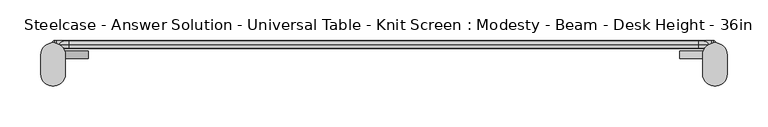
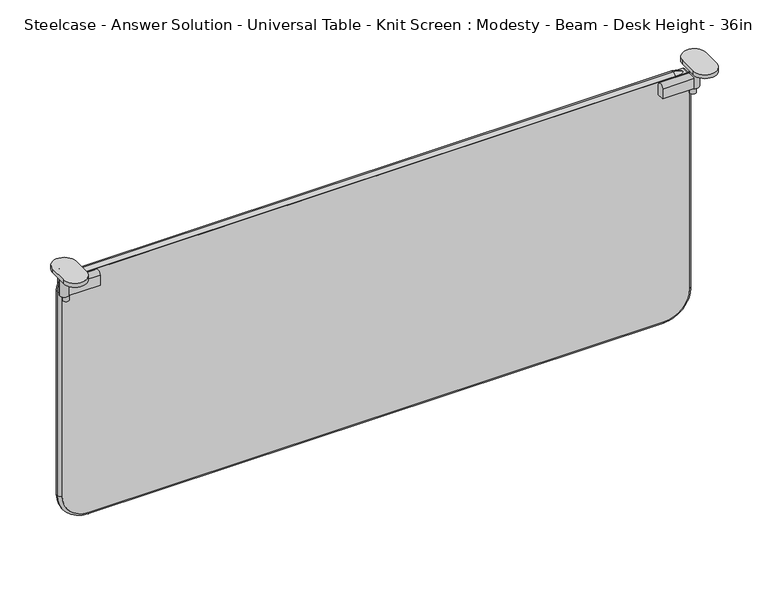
"""IFC4 building model written with IfcOpenShell, lengths in millimetres: furniture geometry, Steelcase - Answer Solution - Universal Table - Knit Screen : Modesty - Beam - Desk Height - 36in."""

from ifc_helpers import new_model, si_unit, point, frame, frame_2d, origin, place, context, project, spatial, polyline, circle_curve, ellipse_curve, trimmed, segment, composite_curve, outline, extrude, source, transform, mapped, element, save
from ifc_brep_helpers import plane_surface, cylinder_surface, revolved_surface, advanced_brep


def steelcase_answer_solution_universal_table_knit_screen_302e8e23(model_context):
    return source(origin(), model_context, "Body", "SolidModel", [
        extrude(outline(composite_curve([segment(polyline([(-29.128946, 557.1716837), (-29.128946, 570.5329841)]), True, "CONTINUOUS"), segment(trimmed(circle_curve(frame_2d((-24.4350465, 570.5329841)), 4.6938995), [point((-29.128946, 570.5329841))], [point((-19.7411469, 570.5329841))], False, "CARTESIAN"), True, "CONTINUOUS"), segment(polyline([(-19.7411469, 570.5329841), (-19.7411469, 557.1716837), (-29.128946, 557.1716837)]), True, "CONTINUOUS")], self_intersect=False)), frame((816.6167228, 0.0, 0.0), z_axis=(1.0, 0.0, 0.0), x_axis=(0.0, 1.0, 0.0)), (0.0, 0.0, 1.0), 43.5285515),
        extrude(outline(composite_curve([segment(trimmed(circle_curve(frame_2d((858.2143327, -24.4352196)), 3.96875), [point((862.1830827, -24.4352196))], [point((854.2455827, -24.4352196))], False, "CARTESIAN"), True, "CONTINUOUS"), segment(trimmed(circle_curve(frame_2d((858.2143327, -24.4352196)), 3.96875), [point((854.2455827, -24.4352196))], [point((862.1830827, -24.4352196))], False, "CARTESIAN"), True, "CONTINUOUS")], self_intersect=False)), frame((0.0, 0.0, 549.0915626), z_axis=(0.0, 0.0, 1.0), x_axis=(1.0, 0.0, 0.0)), (0.0, 0.0, 1.0), 8.0801211),
        extrude(outline(composite_curve([segment(trimmed(circle_curve(frame_2d((860.1452743, -24.4352196)), 5.8800133), [point((866.0252876, -24.4352196))], [point((854.265261, -24.4352196))], False, "CARTESIAN"), True, "CONTINUOUS"), segment(trimmed(circle_curve(frame_2d((860.1452743, -24.4352196)), 5.8800133), [point((854.265261, -24.4352196))], [point((866.0252876, -24.4352196))], False, "CARTESIAN"), True, "CONTINUOUS")], self_intersect=False)), frame((0.0, 0.0, 557.1716837), z_axis=(0.0, 0.0, 1.0), x_axis=(1.0, 0.0, 0.0)), (0.0, 0.0, 1.0), 34.3007611),
        extrude(outline(composite_curve([segment(polyline([(875.201332, -24.6349615), (875.201332, -48.0866189)]), True, "CONTINUOUS"), segment(trimmed(circle_curve(frame_2d((860.145565, -48.0866189)), 15.0557671), [point((875.201332, -48.0866189))], [point((845.0897979, -48.0866189))], False, "CARTESIAN"), True, "CONTINUOUS"), segment(polyline([(845.0897979, -48.0866189), (845.0897979, -24.6349615)]), True, "CONTINUOUS"), segment(trimmed(circle_curve(frame_2d((860.145565, -24.6349615)), 15.0557671), [point((845.0897979, -24.6349615))], [point((875.201332, -24.6349615))], False, "CARTESIAN"), True, "CONTINUOUS")], self_intersect=False)), frame((0.0, 0.0, 591.4724448), z_axis=(0.0, 0.0, 1.0), x_axis=(1.0, 0.0, 0.0)), (0.0, 0.0, 1.0), 5.4275552),
        extrude(outline(composite_curve([segment(polyline([(-29.128946, 557.1716837), (-29.128946, 570.5329841)]), True, "CONTINUOUS"), segment(trimmed(circle_curve(frame_2d((-24.4350465, 570.5329841)), 4.6938995), [point((-29.128946, 570.5329841))], [point((-19.7411469, 570.5329841))], False, "CARTESIAN"), True, "CONTINUOUS"), segment(polyline([(-19.7411469, 570.5329841), (-19.7411469, 557.1716837), (-29.128946, 557.1716837)]), True, "CONTINUOUS")], self_intersect=False)), frame((47.6108911, 0.0, 0.0), z_axis=(1.0, 0.0, 0.0), x_axis=(0.0, 1.0, 0.0)), (0.0, 0.0, 1.0), 43.5285515),
        extrude(outline(composite_curve([segment(trimmed(circle_curve(frame_2d((49.5418327, -24.4352196)), 3.96875), [point((45.5730827, -24.4352196))], [point((53.5105827, -24.4352196))], False, "CARTESIAN"), True, "CONTINUOUS"), segment(trimmed(circle_curve(frame_2d((49.5418327, -24.4352196)), 3.96875), [point((53.5105827, -24.4352196))], [point((45.5730827, -24.4352196))], False, "CARTESIAN"), True, "CONTINUOUS")], self_intersect=False)), frame((0.0, 0.0, 549.0915626), z_axis=(0.0, 0.0, 1.0), x_axis=(1.0, 0.0, 0.0)), (0.0, 0.0, 1.0), 8.0801211),
        extrude(outline(composite_curve([segment(trimmed(circle_curve(frame_2d((47.6108911, -24.4352196)), 5.8800133), [point((41.7308778, -24.4352196))], [point((53.4909043, -24.4352196))], False, "CARTESIAN"), True, "CONTINUOUS"), segment(trimmed(circle_curve(frame_2d((47.6108911, -24.4352196)), 5.8800133), [point((53.4909043, -24.4352196))], [point((41.7308778, -24.4352196))], False, "CARTESIAN"), True, "CONTINUOUS")], self_intersect=False)), frame((0.0, 0.0, 557.1716837), z_axis=(0.0, 0.0, 1.0), x_axis=(1.0, 0.0, 0.0)), (0.0, 0.0, 1.0), 34.3007611),
        extrude(outline(composite_curve([segment(trimmed(circle_curve(frame_2d((47.6106004, -24.6349615)), 15.0557671), [point((32.5548333, -24.6349615))], [point((62.6663674, -24.6349615))], False, "CARTESIAN"), True, "CONTINUOUS"), segment(polyline([(62.6663674, -24.6349615), (62.6663674, -48.0866189)]), True, "CONTINUOUS"), segment(trimmed(circle_curve(frame_2d((47.6106004, -48.0866189)), 15.0557671), [point((62.6663674, -48.0866189))], [point((32.5548333, -48.0866189))], False, "CARTESIAN"), True, "CONTINUOUS"), segment(polyline([(32.5548333, -48.0866189), (32.5548333, -24.6349615)]), True, "CONTINUOUS")], self_intersect=False)), frame((0.0, 0.0, 591.4724448), z_axis=(0.0, 0.0, 1.0), x_axis=(1.0, 0.0, 0.0)), (0.0, 0.0, 1.0), 5.4275552),
        extrude(outline(composite_curve([segment(trimmed(circle_curve(frame_2d((275.3734529, 825.1969049)), 33.0004615), [point((242.3729913, 825.1969049))], [point((275.3734529, 858.1973664))], False, "CARTESIAN"), True, "CONTINUOUS"), segment(polyline([(275.3734529, 858.1973664), (568.7143507, 858.1973664)]), True, "CONTINUOUS"), segment(trimmed(circle_curve(frame_2d((568.7143507, 855.3924906)), 2.8048758), [point((568.7143507, 858.1973664))], [point((571.5192266, 855.3924906))], False, "CARTESIAN"), True, "CONTINUOUS"), segment(polyline([(571.5192266, 855.3924906), (571.5192266, 51.8743664)]), True, "CONTINUOUS"), segment(trimmed(circle_curve(frame_2d((569.2036591, 51.8743664)), 2.3155675), [point((571.5192266, 51.8743664))], [point((569.2036591, 49.5587989))], False, "CARTESIAN"), True, "CONTINUOUS"), segment(polyline([(569.2036591, 49.5587989), (276.2900738, 49.5587989)]), True, "CONTINUOUS"), segment(trimmed(circle_curve(frame_2d((276.2900738, 83.4758814)), 33.9170825), [point((276.2900738, 49.5587989))], [point((242.3729913, 83.4758814))], False, "CARTESIAN"), True, "CONTINUOUS"), segment(polyline([(242.3729913, 83.4758814), (242.3729913, 825.1969049)]), True, "CONTINUOUS")], self_intersect=False)), frame((0.0, -16.5783031, 0.0), z_axis=(0.0, 1.0, 0.0), x_axis=(0.0, 0.0, 1.0)), (0.0, 0.0, 1.0), 9.6878455),
        advanced_brep(
        [(45.5730839, -11.7343804, 554.0906591), (66.9873664, -11.7343804, 575.5049416), (66.9873664, -6.8904577, 571.5192266), (49.5587989, -6.8904577, 554.0906591), (49.5587989, -16.5783031, 554.0906591), (66.9873664, -16.5783031, 571.5192266), (49.5587989, -6.8904577, 276.2900738), (45.5730839, -11.7343804, 276.2900738), (49.5587989, -16.5783031, 276.2900738), (83.4758814, -11.7343804, 238.3872763), (83.4758814, -6.8904577, 242.3729913), (83.4758814, -16.5783031, 242.3729913), (825.1969049, -6.8904577, 242.3729913), (825.1969049, -11.7343804, 238.3872763), (825.1969049, -16.5783031, 242.3729913), (862.1830815, -11.7343804, 275.3734529), (858.1973664, -6.8904577, 275.3734529), (858.1973664, -16.5783031, 275.3734529), (858.1973664, -6.8904577, 553.6013507), (862.1830815, -11.7343804, 553.6013507), (858.1973664, -16.5783031, 553.6013507), (840.2794906, -11.7343804, 575.5049416), (840.2794906, -6.8904577, 571.5192266), (840.2794906, -16.5783031, 571.5192266)],
        [
            (0, 1, circle_curve(frame((66.9873664, -11.7343804, 554.0906591), z_axis=(0.0, 1.0, 0.0), x_axis=(0.0, 0.0, 1.0)), 21.4142825)),
            (1, 2, circle_curve(frame((66.9873664, -11.7343804, 570.5686238), z_axis=(-1.0, 0.0, 0.0), x_axis=(0.0, 0.0, 1.0)), 4.9363178)),
            (2, 3, circle_curve(frame((66.9873664, -6.8904577, 554.0906591), z_axis=(0.0, -1.0, 0.0), x_axis=(0.0, 0.0, 1.0)), 17.4285675)),
            (3, 0, circle_curve(frame((50.5094016, -11.7343804, 554.0906591), z_axis=(0.0, 0.0, 1.0), x_axis=(-1.0, 0.0, 0.0)), 4.9363178)),
            (4, 5, circle_curve(frame((66.9873664, -16.5783031, 554.0906591), z_axis=(0.0, 1.0, 0.0), x_axis=(0.0, 0.0, 1.0)), 17.4285675)),
            (5, 1, circle_curve(frame((66.9873664, -11.7343804, 570.5686238), z_axis=(-1.0, 0.0, 0.0), x_axis=(0.0, 0.0, 1.0)), 4.9363178)),
            (0, 4, circle_curve(frame((50.5094016, -11.7343804, 554.0906591), z_axis=(0.0, 0.0, 1.0), x_axis=(-1.0, 0.0, 0.0)), 4.9363178)),
            (2, 5),
            (4, 3),
            (3, 6),
            (6, 7, circle_curve(frame((50.5094016, -11.7343804, 276.2900738), z_axis=(0.0, 0.0, 1.0), x_axis=(-1.0, 0.0, 0.0)), 4.9363178)),
            (7, 0),
            (7, 8, circle_curve(frame((50.5094016, -11.7343804, 276.2900738), z_axis=(0.0, 0.0, 1.0), x_axis=(-1.0, 0.0, 0.0)), 4.9363178)),
            (8, 4),
            (8, 6),
            (9, 7, circle_curve(frame((83.4758814, -11.7343804, 276.2900738), z_axis=(0.0, 1.0, 0.0), x_axis=(-1.0, 0.0, 0.0)), 37.9027975)),
            (6, 10, circle_curve(frame((83.4758814, -6.8904577, 276.2900738), z_axis=(0.0, -1.0, 0.0), x_axis=(-1.0, 0.0, 0.0)), 33.9170825)),
            (10, 9, circle_curve(frame((83.4758814, -11.7343804, 243.323594), z_axis=(-1.0, 0.0, 0.0), x_axis=(0.0, 0.0, -1.0)), 4.9363178)),
            (11, 8, circle_curve(frame((83.4758814, -16.5783031, 276.2900738), z_axis=(0.0, 1.0, 0.0), x_axis=(-1.0, 0.0, 0.0)), 33.9170825)),
            (9, 11, circle_curve(frame((83.4758814, -11.7343804, 243.323594), z_axis=(-1.0, 0.0, 0.0), x_axis=(0.0, 0.0, -1.0)), 4.9363178)),
            (11, 10),
            (10, 12),
            (12, 13, circle_curve(frame((825.1969049, -11.7343804, 243.323594), z_axis=(-1.0, 0.0, 0.0), x_axis=(0.0, 0.0, -1.0)), 4.9363178)),
            (13, 9),
            (13, 14, circle_curve(frame((825.1969049, -11.7343804, 243.323594), z_axis=(-1.0, 0.0, 0.0), x_axis=(0.0, 0.0, -1.0)), 4.9363178)),
            (14, 11),
            (14, 12),
            (15, 13, circle_curve(frame((825.1969049, -11.7343804, 275.3734529), z_axis=(0.0, 1.0, 0.0), x_axis=(0.0, 0.0, -1.0)), 36.9861766)),
            (12, 16, circle_curve(frame((825.1969049, -6.8904577, 275.3734529), z_axis=(0.0, -1.0, 0.0), x_axis=(0.0, 0.0, -1.0)), 33.0004615)),
            (16, 15, circle_curve(frame((857.2467637, -11.7343804, 275.3734529), z_axis=(0.0, 0.0, -1.0), x_axis=(1.0, 0.0, 0.0)), 4.9363178)),
            (17, 14, circle_curve(frame((825.1969049, -16.5783031, 275.3734529), z_axis=(0.0, 1.0, 0.0), x_axis=(0.0, 0.0, -1.0)), 33.0004615)),
            (15, 17, circle_curve(frame((857.2467637, -11.7343804, 275.3734529), z_axis=(0.0, 0.0, -1.0), x_axis=(1.0, 0.0, 0.0)), 4.9363178)),
            (17, 16),
            (16, 18),
            (18, 19, circle_curve(frame((857.2467637, -11.7343804, 553.6013507), z_axis=(0.0, 0.0, -1.0), x_axis=(1.0, 0.0, 0.0)), 4.9363178)),
            (19, 15),
            (19, 20, circle_curve(frame((857.2467637, -11.7343804, 553.6013507), z_axis=(0.0, 0.0, -1.0), x_axis=(1.0, 0.0, 0.0)), 4.9363178)),
            (20, 17),
            (20, 18),
            (21, 19, circle_curve(frame((840.2794906, -11.7343804, 553.6013507), z_axis=(0.0, 1.0, 0.0), x_axis=(1.0, 0.0, 0.0)), 21.9035909)),
            (18, 22, circle_curve(frame((840.2794906, -6.8904577, 553.6013507), z_axis=(0.0, -1.0, 0.0), x_axis=(1.0, 0.0, 0.0)), 17.9178758)),
            (22, 21, circle_curve(frame((840.2794906, -11.7343804, 570.5686238), z_axis=(1.0, 0.0, 0.0), x_axis=(0.0, 0.0, 1.0)), 4.9363178)),
            (23, 20, circle_curve(frame((840.2794906, -16.5783031, 553.6013507), z_axis=(0.0, 1.0, 0.0), x_axis=(1.0, 0.0, 0.0)), 17.9178758)),
            (21, 23, circle_curve(frame((840.2794906, -11.7343804, 570.5686238), z_axis=(1.0, 0.0, 0.0), x_axis=(0.0, 0.0, 1.0)), 4.9363178)),
            (23, 22),
            (22, 2),
            (1, 21),
            (5, 23),
        ],
        [
            revolved_surface(trimmed(ellipse_curve(frame((66.9873664, -11.7343804, 570.5686238), z_axis=(1.0, 0.0, 0.0), x_axis=(0.0, 0.0, 1.0)), 4.9363178, 4.9363178), [point((66.9873664, -6.8904577, 571.5192266))], [point((66.9873664, -11.7343804, 575.5049416))], True, "CARTESIAN"), (66.9873664, -11.7343804, 554.0906591), (0.0, -1.0, 0.0)),
            revolved_surface(trimmed(ellipse_curve(frame((66.9873664, -11.7343804, 570.5686238), z_axis=(1.0, 0.0, 0.0), x_axis=(0.0, 0.0, 1.0)), 4.9363178, 4.9363178), [point((66.9873664, -11.7343804, 575.5049416))], [point((66.9873664, -16.5783031, 571.5192266))], True, "CARTESIAN"), (66.9873664, -11.7343804, 554.0906591), (0.0, -1.0, 0.0)),
            revolved_surface(polyline([(66.9873664, -16.5783031, 571.5192266), (66.9873664, -6.8904577, 571.5192266)]), (66.9873664, -11.7343804, 554.0906591), (0.0, -1.0, 0.0)),
            cylinder_surface(frame((50.5094016, -11.7343804, 554.0906591), z_axis=(0.0, 0.0, 1.0), x_axis=(-1.0, 0.0, 0.0)), 4.9363178),
            plane_surface(frame((49.5587989, -16.5783031, 554.0906591), z_axis=(1.0, 0.0, 0.0), x_axis=(0.0, 0.0, -1.0))),
            revolved_surface(trimmed(ellipse_curve(frame((50.5094016, -11.7343804, 276.2900738), z_axis=(0.0, 0.0, 1.0), x_axis=(-1.0, 0.0, 0.0)), 4.9363178, 4.9363178), [point((49.5587989, -6.8904577, 276.2900738))], [point((45.5730839, -11.7343804, 276.2900738))], True, "CARTESIAN"), (83.4758814, -11.7343804, 276.2900738), (0.0, -1.0, 0.0)),
            revolved_surface(trimmed(ellipse_curve(frame((50.5094016, -11.7343804, 276.2900738), z_axis=(0.0, 0.0, 1.0), x_axis=(-1.0, 0.0, 0.0)), 4.9363178, 4.9363178), [point((45.5730839, -11.7343804, 276.2900738))], [point((49.5587989, -16.5783031, 276.2900738))], True, "CARTESIAN"), (83.4758814, -11.7343804, 276.2900738), (0.0, -1.0, 0.0)),
            revolved_surface(polyline([(49.558798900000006, -16.5783031, 276.2900738), (49.558798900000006, -6.8904577, 276.2900738)]), (83.4758814, -11.7343804, 276.2900738), (0.0, -1.0, 0.0)),
            cylinder_surface(frame((83.4758814, -11.7343804, 243.323594), z_axis=(-1.0, 0.0, 0.0), x_axis=(0.0, 0.0, -1.0)), 4.9363178),
            plane_surface(frame((83.4758814, -16.5783031, 242.3729913), z_axis=(0.0, 0.0, 1.0), x_axis=(1.0, 0.0, 0.0))),
            revolved_surface(trimmed(ellipse_curve(frame((825.1969049, -11.7343804, 243.323594), z_axis=(-1.0, 0.0, 0.0), x_axis=(0.0, 0.0, -1.0)), 4.9363178, 4.9363178), [point((825.1969049, -6.8904577, 242.3729913))], [point((825.1969049, -11.7343804, 238.3872763))], True, "CARTESIAN"), (825.1969049, -11.7343804, 275.3734529), (0.0, -1.0, 0.0)),
            revolved_surface(trimmed(ellipse_curve(frame((825.1969049, -11.7343804, 243.323594), z_axis=(-1.0, 0.0, 0.0), x_axis=(0.0, 0.0, -1.0)), 4.9363178, 4.9363178), [point((825.1969049, -11.7343804, 238.3872763))], [point((825.1969049, -16.5783031, 242.3729913))], True, "CARTESIAN"), (825.1969049, -11.7343804, 275.3734529), (0.0, -1.0, 0.0)),
            revolved_surface(polyline([(825.1969049, -16.5783031, 242.37299140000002), (825.1969049, -6.8904577, 242.37299140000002)]), (825.1969049, -11.7343804, 275.3734529), (0.0, -1.0, 0.0)),
            cylinder_surface(frame((857.2467637, -11.7343804, 275.3734529), z_axis=(0.0, 0.0, -1.0), x_axis=(1.0, 0.0, 0.0)), 4.9363178),
            plane_surface(frame((858.1973664, -16.5783031, 275.3734529), z_axis=(-1.0, 0.0, 0.0), x_axis=(0.0, 0.0, 1.0))),
            revolved_surface(trimmed(ellipse_curve(frame((857.2467637, -11.7343804, 553.6013507), z_axis=(0.0, 0.0, -1.0), x_axis=(1.0, 0.0, 0.0)), 4.9363178, 4.9363178), [point((858.1973664, -6.8904577, 553.6013507))], [point((862.1830815, -11.7343804, 553.6013507))], True, "CARTESIAN"), (840.2794906, -11.7343804, 553.6013507), (0.0, -1.0, 0.0)),
            revolved_surface(trimmed(ellipse_curve(frame((857.2467637, -11.7343804, 553.6013507), z_axis=(0.0, 0.0, -1.0), x_axis=(1.0, 0.0, 0.0)), 4.9363178, 4.9363178), [point((862.1830815, -11.7343804, 553.6013507))], [point((858.1973664, -16.5783031, 553.6013507))], True, "CARTESIAN"), (840.2794906, -11.7343804, 553.6013507), (0.0, -1.0, 0.0)),
            revolved_surface(polyline([(858.1973664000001, -16.5783031, 553.6013507), (858.1973664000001, -6.8904577, 553.6013507)]), (840.2794906, -11.7343804, 553.6013507), (0.0, -1.0, 0.0)),
            cylinder_surface(frame((840.2794906, -11.7343804, 570.5686238), z_axis=(1.0, 0.0, 0.0), x_axis=(0.0, 0.0, 1.0)), 4.9363178),
            plane_surface(frame((840.2794906, -16.5783031, 571.5192266), z_axis=(0.0, 0.0, -1.0), x_axis=(-1.0, 0.0, 0.0))),
        ],
        [
            (0, [[1, 2, 3, 4]]),
            (1, [[5, 6, -1, 7]]),
            (2, [[-3, 8, -5, 9]]),
            (3, [[-4, 10, 11, 12]]),
            (3, [[-7, -12, 13, 14]]),
            (4, [[-9, -14, 15, -10]]),
            (5, [[16, -11, 17, 18]]),
            (6, [[19, -13, -16, 20]]),
            (7, [[-17, -15, -19, 21]]),
            (8, [[-18, 22, 23, 24]]),
            (8, [[-20, -24, 25, 26]]),
            (9, [[-21, -26, 27, -22]]),
            (10, [[28, -23, 29, 30]]),
            (11, [[31, -25, -28, 32]]),
            (12, [[-29, -27, -31, 33]]),
            (13, [[-30, 34, 35, 36]]),
            (13, [[-32, -36, 37, 38]]),
            (14, [[-33, -38, 39, -34]]),
            (15, [[40, -35, 41, 42]]),
            (16, [[43, -37, -40, 44]]),
            (17, [[-41, -39, -43, 45]]),
            (18, [[-42, 46, -2, 47]]),
            (18, [[-44, -47, -6, 48]]),
            (19, [[-45, -48, -8, -46]]),
        ],
    ),
    ])


if __name__ == "__main__":
    model = new_model("IFC4")
    model_context = context("Model", 3, world=origin())
    ifc_project = project(units=[si_unit("LENGTHUNIT", "METRE", prefix="MILLI")], contexts=[model_context])
    site = spatial("IfcSite", under=ifc_project)
    building = spatial("IfcBuilding", under=site)
    placement = place(None, origin())
    steelcase_answer_solution_universal_table_knit_screen_shape = steelcase_answer_solution_universal_table_knit_screen_302e8e23(model_context)
    element("IfcFurniture", 1, ObjectType="Steelcase - Answer Solution - Universal Table - Knit Screen : Modesty - Beam - Desk Height - 36in", at=placement, inside=building, context=model_context, shape_type="MappedRepresentation", body=[
        mapped(steelcase_answer_solution_universal_table_knit_screen_shape, transform((0.0, 0.0, 0.0), x_axis=(1.0, 0.0, 0.0), y_axis=(0.0, 1.0, 0.0), z_axis=(0.0, 0.0, 1.0))),
    ])
    save(model, "model.ifc")
